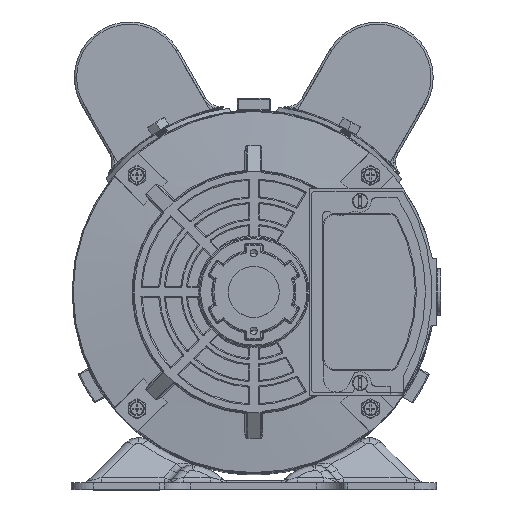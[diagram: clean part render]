
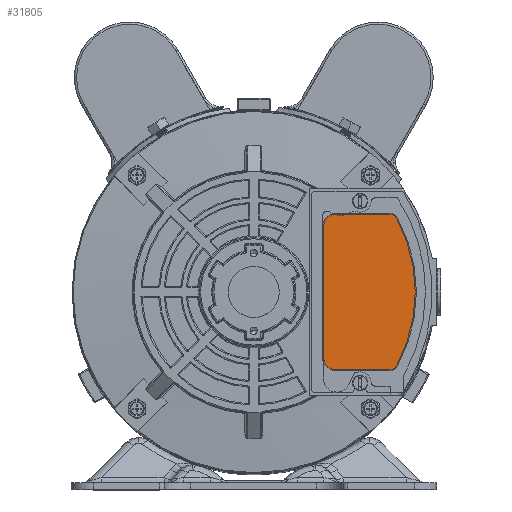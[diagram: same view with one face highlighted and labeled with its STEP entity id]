
A CAD part, top view. The second image highlights one B-rep face of the part: STEP entity #31805.
In plain terms, the highlighted planar face has unit normal (0, 0, 1).
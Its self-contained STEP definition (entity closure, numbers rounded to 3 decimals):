
#311 = DIRECTION ( 'NONE',  ( 1., 0., 0. ) ) ;
#8024 = CARTESIAN_POINT ( 'NONE',  ( 45.4, 58.078, 490.625 ) ) ;
#9353 = PLANE ( 'NONE',  #61734 ) ;
#9359 = CARTESIAN_POINT ( 'NONE',  ( -16.113, 24.669, 490.625 ) ) ;
#9644 = CIRCLE ( 'NONE', #77026, 4. ) ;
#10495 = EDGE_CURVE ( 'NONE', #14132, #36317, #9644, .T. ) ;
#10499 = ORIENTED_EDGE ( 'NONE', *, *, #51994, .T. ) ;
#11445 = ORIENTED_EDGE ( 'NONE', *, *, #46015, .T. ) ;
#12621 = EDGE_CURVE ( 'NONE', #16605, #27256, #114905, .T. ) ;
#14132 = VERTEX_POINT ( 'NONE', #8024 ) ;
#14855 = VECTOR ( 'NONE', #103150, 1000. ) ;
#16605 = VERTEX_POINT ( 'NONE', #76056 ) ;
#18360 = AXIS2_PLACEMENT_3D ( 'NONE', #35419, #72180, #108970 ) ;
#19026 = ORIENTED_EDGE ( 'NONE', *, *, #75222, .T. ) ;
#20707 = EDGE_CURVE ( 'NONE', #67669, #58749, #115800, .T. ) ;
#21448 = DIRECTION ( 'NONE',  ( 0., -1., 0. ) ) ;
#21905 = ORIENTED_EDGE ( 'NONE', *, *, #10495, .T. ) ;
#24428 = ORIENTED_EDGE ( 'NONE', *, *, #80159, .T. ) ;
#24902 = AXIS2_PLACEMENT_3D ( 'NONE', #9359, #46095, #82890 ) ;
#26559 = DIRECTION ( 'NONE',  ( 0., 0., 1. ) ) ;
#27256 = VERTEX_POINT ( 'NONE', #51981 ) ;
#29612 = LINE ( 'NONE', #66395, #14855 ) ;
#29828 = DIRECTION ( 'NONE',  ( 0., -1., 0. ) ) ;
#31805 = ADVANCED_FACE ( 'NONE', ( #91930 ), #9353, .T. ) ;
#34763 = LINE ( 'NONE', #71506, #78850 ) ;
#35419 = CARTESIAN_POINT ( 'NONE',  ( 17.507, 54.169, 490.625 ) ) ;
#36317 = VERTEX_POINT ( 'NONE', #118447 ) ;
#43884 = EDGE_CURVE ( 'NONE', #27256, #67669, #34763, .T. ) ;
#44928 = CARTESIAN_POINT ( 'NONE',  ( 41.885, -6.831, 490.625 ) ) ;
#45330 = VERTEX_POINT ( 'NONE', #112334 ) ;
#46015 = EDGE_CURVE ( 'NONE', #58749, #14132, #76905, .T. ) ;
#46090 = CARTESIAN_POINT ( 'NONE',  ( -16.113, 24.669, 490.625 ) ) ;
#46095 = DIRECTION ( 'NONE',  ( 0., 0., 1. ) ) ;
#51981 = CARTESIAN_POINT ( 'NONE',  ( 17.507, -10.831, 490.625 ) ) ;
#51994 = EDGE_CURVE ( 'NONE', #36317, #90245, #29612, .T. ) ;
#54494 = ORIENTED_EDGE ( 'NONE', *, *, #43884, .T. ) ;
#58749 = VERTEX_POINT ( 'NONE', #117528 ) ;
#61734 = AXIS2_PLACEMENT_3D ( 'NONE', #46090, #82885, #311 ) ;
#62906 = AXIS2_PLACEMENT_3D ( 'NONE', #75655, #112442, #29828 ) ;
#63319 = DIRECTION ( 'NONE',  ( 0., -1., 0. ) ) ;
#63804 = AXIS2_PLACEMENT_3D ( 'NONE', #44928, #81722, #118482 ) ;
#66395 = CARTESIAN_POINT ( 'NONE',  ( 44.217, 60.169, 490.625 ) ) ;
#67282 = LINE ( 'NONE', #104042, #67962 ) ;
#67669 = VERTEX_POINT ( 'NONE', #79278 ) ;
#67962 = VECTOR ( 'NONE', #21448, 1000. ) ;
#70354 = CIRCLE ( 'NONE', #18360, 6. ) ;
#71506 = CARTESIAN_POINT ( 'NONE',  ( 11.507, -10.831, 490.625 ) ) ;
#72180 = DIRECTION ( 'NONE',  ( 0., 0., 1. ) ) ;
#75222 = EDGE_CURVE ( 'NONE', #45330, #16605, #67282, .T. ) ;
#75655 = CARTESIAN_POINT ( 'NONE',  ( 17.507, -4.831, 490.625 ) ) ;
#76056 = CARTESIAN_POINT ( 'NONE',  ( 11.507, -4.831, 490.625 ) ) ;
#76905 = CIRCLE ( 'NONE', #24902, 70. ) ;
#77026 = AXIS2_PLACEMENT_3D ( 'NONE', #109145, #26559, #63319 ) ;
#78678 = CARTESIAN_POINT ( 'NONE',  ( 17.507, 60.169, 490.625 ) ) ;
#78850 = VECTOR ( 'NONE', #108294, 1000. ) ;
#79278 = CARTESIAN_POINT ( 'NONE',  ( 41.885, -10.831, 490.625 ) ) ;
#80159 = EDGE_CURVE ( 'NONE', #90245, #45330, #70354, .T. ) ;
#81722 = DIRECTION ( 'NONE',  ( 0., 0., 1. ) ) ;
#82885 = DIRECTION ( 'NONE',  ( 0., 0., 1. ) ) ;
#82890 = DIRECTION ( 'NONE',  ( 0., -1., 0. ) ) ;
#90245 = VERTEX_POINT ( 'NONE', #78678 ) ;
#91354 = EDGE_LOOP ( 'NONE', ( #54494, #98918, #11445, #21905, #10499, #24428, #19026, #111859 ) ) ;
#91930 = FACE_OUTER_BOUND ( 'NONE', #91354, .T. ) ;
#98918 = ORIENTED_EDGE ( 'NONE', *, *, #20707, .T. ) ;
#103150 = DIRECTION ( 'NONE',  ( -1., 0., 0. ) ) ;
#104042 = CARTESIAN_POINT ( 'NONE',  ( 11.507, 60.169, 490.625 ) ) ;
#108294 = DIRECTION ( 'NONE',  ( 1., 0., 0. ) ) ;
#108970 = DIRECTION ( 'NONE',  ( 0., -1., 0. ) ) ;
#109145 = CARTESIAN_POINT ( 'NONE',  ( 41.885, 56.169, 490.625 ) ) ;
#111859 = ORIENTED_EDGE ( 'NONE', *, *, #12621, .T. ) ;
#112334 = CARTESIAN_POINT ( 'NONE',  ( 11.507, 54.169, 490.625 ) ) ;
#112442 = DIRECTION ( 'NONE',  ( 0., 0., 1. ) ) ;
#114905 = CIRCLE ( 'NONE', #62906, 6. ) ;
#115800 = CIRCLE ( 'NONE', #63804, 4. ) ;
#117528 = CARTESIAN_POINT ( 'NONE',  ( 45.4, -8.74, 490.625 ) ) ;
#118447 = CARTESIAN_POINT ( 'NONE',  ( 41.885, 60.169, 490.625 ) ) ;
#118482 = DIRECTION ( 'NONE',  ( 0., -1., 0. ) ) ;
